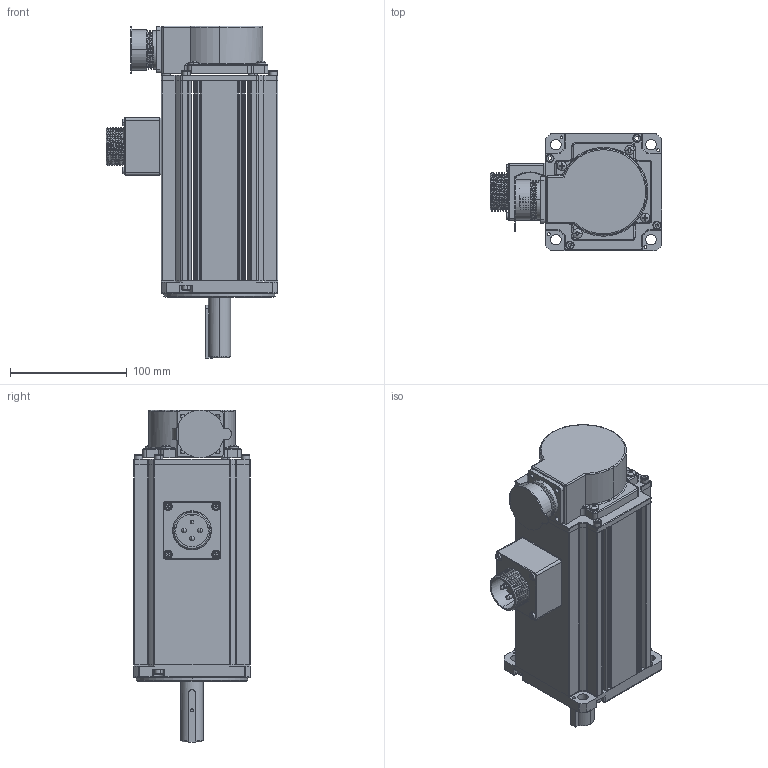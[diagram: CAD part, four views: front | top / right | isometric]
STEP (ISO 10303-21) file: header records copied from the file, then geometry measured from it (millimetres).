
FILE_DESCRIPTION (( 'STEP AP203' ), '1' );
FILE_NAME ('WF100ST-Z1M08030总装-YD28+轴19×55.STEP', '2024-01-30T08:51:05', ( 'lvbing' ), ( 'WG' ), 'SwSTEP 2.0', 'SolidWorks 2018', '' );
FILE_SCHEMA (( 'CONFIG_CONTROL_DESIGN' ));
Length unit declared in the file: millimetre
Products named in the file (2): WF100ST-Z1M08030总装-YD28+轴19×55
Bounding box: 147 x 100 x 284 mm (x, y, z)
Surface area: 152154.3 mm2 (no closed solid volume)
Topology: 0 solids, 56 shells, 967 faces, 2744 edges, 1797 vertices
Faces by surface type: cylinder 413, plane 322, torus 138, cone 45, bspline 31, sphere 18
Entity records: 34328 total; most frequent: CARTESIAN_POINT 9218, DIRECTION 5629, ORIENTED_EDGE 4640, EDGE_CURVE 2703, AXIS2_PLACEMENT_3D 2174, VERTEX_POINT 1789, LINE 1281, VECTOR 1281
